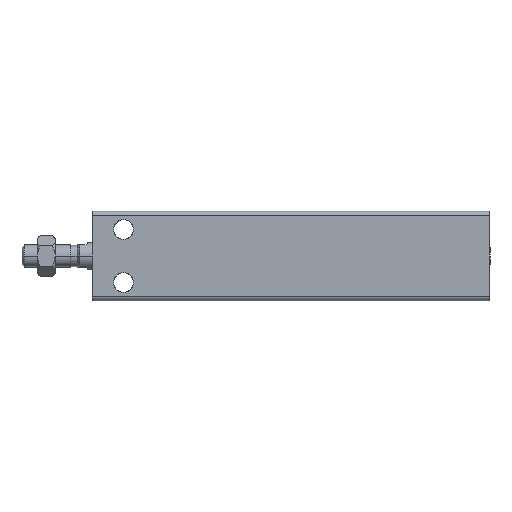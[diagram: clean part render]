
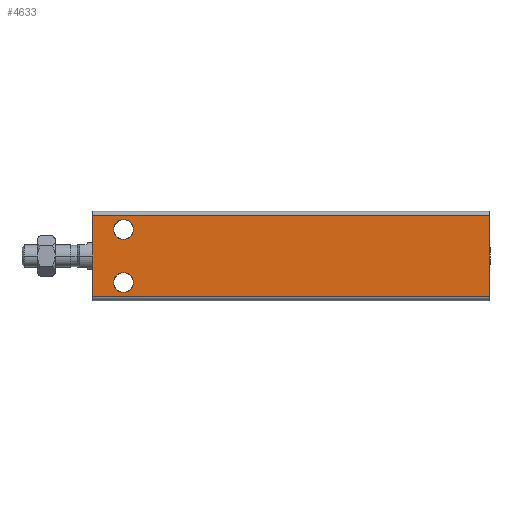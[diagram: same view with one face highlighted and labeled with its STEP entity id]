
A CAD part, front view. The second image highlights one B-rep face of the part: STEP entity #4633.
In plain terms, the highlighted planar face has unit normal (0, -1, 0).
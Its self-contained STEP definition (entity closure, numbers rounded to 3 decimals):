
#179 = CARTESIAN_POINT ( 'NONE',  ( 7., -16.1, 6. ) ) ;
#419 = VERTEX_POINT ( 'NONE', #20706 ) ;
#474 = CARTESIAN_POINT ( 'NONE',  ( 0., -16.1, -9.1 ) ) ;
#635 = EDGE_CURVE ( 'NONE', #19665, #419, #22844, .T. ) ;
#868 = DIRECTION ( 'NONE',  ( 0., 0., 1. ) ) ;
#900 = CIRCLE ( 'NONE', #3346, 2.25 ) ;
#1128 = AXIS2_PLACEMENT_3D ( 'NONE', #179, #5759, #9561 ) ;
#1520 = FACE_OUTER_BOUND ( 'NONE', #14788, .T. ) ;
#1553 = EDGE_CURVE ( 'NONE', #11387, #19665, #16925, .T. ) ;
#2215 = EDGE_LOOP ( 'NONE', ( #16456, #19762 ) ) ;
#2289 = CARTESIAN_POINT ( 'NONE',  ( 90., -16.1, 9.1 ) ) ;
#2331 = CIRCLE ( 'NONE', #13453, 2.25 ) ;
#2388 = FACE_BOUND ( 'NONE', #2215, .T. ) ;
#2421 = DIRECTION ( 'NONE',  ( 0., 0., 1. ) ) ;
#2719 = CARTESIAN_POINT ( 'NONE',  ( 7., -16.1, -6. ) ) ;
#3106 = EDGE_CURVE ( 'NONE', #9100, #9181, #4360, .T. ) ;
#3111 = CARTESIAN_POINT ( 'NONE',  ( 90., -16.1, 9.1 ) ) ;
#3190 = DIRECTION ( 'NONE',  ( 0., 1., 0. ) ) ;
#3346 = AXIS2_PLACEMENT_3D ( 'NONE', #20627, #19001, #5717 ) ;
#3350 = PLANE ( 'NONE',  #12314 ) ;
#3556 = ORIENTED_EDGE ( 'NONE', *, *, #1553, .F. ) ;
#4061 = CARTESIAN_POINT ( 'NONE',  ( 0., -16.1, 9.1 ) ) ;
#4349 = DIRECTION ( 'NONE',  ( 0., -1., 0. ) ) ;
#4360 = CIRCLE ( 'NONE', #1128, 2.25 ) ;
#4633 = ADVANCED_FACE ( 'NONE', ( #1520, #2388, #11062 ), #3350, .F. ) ;
#4883 = ORIENTED_EDGE ( 'NONE', *, *, #14107, .F. ) ;
#4982 = EDGE_CURVE ( 'NONE', #11387, #12012, #11325, .T. ) ;
#5717 = DIRECTION ( 'NONE',  ( 0., 0., 1. ) ) ;
#5759 = DIRECTION ( 'NONE',  ( 0., -1., 0. ) ) ;
#6258 = DIRECTION ( 'NONE',  ( 0., 0., -1. ) ) ;
#6958 = AXIS2_PLACEMENT_3D ( 'NONE', #11647, #4349, #2421 ) ;
#9100 = VERTEX_POINT ( 'NONE', #23767 ) ;
#9181 = VERTEX_POINT ( 'NONE', #20670 ) ;
#9561 = DIRECTION ( 'NONE',  ( 0., 0., 1. ) ) ;
#9975 = CARTESIAN_POINT ( 'NONE',  ( 7., -16.1, -8.25 ) ) ;
#10064 = EDGE_CURVE ( 'NONE', #12104, #15902, #2331, .T. ) ;
#10166 = DIRECTION ( 'NONE',  ( 0., -1., 0. ) ) ;
#10246 = ORIENTED_EDGE ( 'NONE', *, *, #3106, .F. ) ;
#10443 = EDGE_CURVE ( 'NONE', #9181, #9100, #11011, .T. ) ;
#10488 = DIRECTION ( 'NONE',  ( 1., 0., 0. ) ) ;
#10730 = CARTESIAN_POINT ( 'NONE',  ( 90., -16.1, 9.1 ) ) ;
#11011 = CIRCLE ( 'NONE', #6958, 2.25 ) ;
#11062 = FACE_BOUND ( 'NONE', #19125, .T. ) ;
#11325 = LINE ( 'NONE', #23832, #13606 ) ;
#11387 = VERTEX_POINT ( 'NONE', #4061 ) ;
#11647 = CARTESIAN_POINT ( 'NONE',  ( 7., -16.1, 6. ) ) ;
#12012 = VERTEX_POINT ( 'NONE', #474 ) ;
#12104 = VERTEX_POINT ( 'NONE', #15602 ) ;
#12314 = AXIS2_PLACEMENT_3D ( 'NONE', #3111, #3190, #21680 ) ;
#12693 = DIRECTION ( 'NONE',  ( 0., 0., -1. ) ) ;
#13423 = ORIENTED_EDGE ( 'NONE', *, *, #635, .F. ) ;
#13453 = AXIS2_PLACEMENT_3D ( 'NONE', #2719, #10166, #868 ) ;
#13606 = VECTOR ( 'NONE', #12693, 1000. ) ;
#14107 = EDGE_CURVE ( 'NONE', #419, #12012, #16590, .T. ) ;
#14788 = EDGE_LOOP ( 'NONE', ( #4883, #13423, #3556, #19489 ) ) ;
#14904 = CARTESIAN_POINT ( 'NONE',  ( 90., -16.1, 9.1 ) ) ;
#15142 = VECTOR ( 'NONE', #19264, 1000. ) ;
#15237 = EDGE_CURVE ( 'NONE', #15902, #12104, #900, .T. ) ;
#15602 = CARTESIAN_POINT ( 'NONE',  ( 7., -16.1, -3.75 ) ) ;
#15902 = VERTEX_POINT ( 'NONE', #9975 ) ;
#16384 = ORIENTED_EDGE ( 'NONE', *, *, #10443, .F. ) ;
#16456 = ORIENTED_EDGE ( 'NONE', *, *, #10064, .F. ) ;
#16590 = LINE ( 'NONE', #17401, #15142 ) ;
#16925 = LINE ( 'NONE', #14904, #19535 ) ;
#17401 = CARTESIAN_POINT ( 'NONE',  ( 90., -16.1, -9.1 ) ) ;
#17890 = VECTOR ( 'NONE', #6258, 1000. ) ;
#19001 = DIRECTION ( 'NONE',  ( 0., -1., 0. ) ) ;
#19125 = EDGE_LOOP ( 'NONE', ( #16384, #10246 ) ) ;
#19264 = DIRECTION ( 'NONE',  ( -1., 0., 0. ) ) ;
#19489 = ORIENTED_EDGE ( 'NONE', *, *, #4982, .T. ) ;
#19535 = VECTOR ( 'NONE', #10488, 1000. ) ;
#19665 = VERTEX_POINT ( 'NONE', #2289 ) ;
#19762 = ORIENTED_EDGE ( 'NONE', *, *, #15237, .F. ) ;
#20627 = CARTESIAN_POINT ( 'NONE',  ( 7., -16.1, -6. ) ) ;
#20670 = CARTESIAN_POINT ( 'NONE',  ( 7., -16.1, 8.25 ) ) ;
#20706 = CARTESIAN_POINT ( 'NONE',  ( 90., -16.1, -9.1 ) ) ;
#21680 = DIRECTION ( 'NONE',  ( 0., 0., 1. ) ) ;
#22844 = LINE ( 'NONE', #10730, #17890 ) ;
#23767 = CARTESIAN_POINT ( 'NONE',  ( 7., -16.1, 3.75 ) ) ;
#23832 = CARTESIAN_POINT ( 'NONE',  ( 0., -16.1, 9.9 ) ) ;
